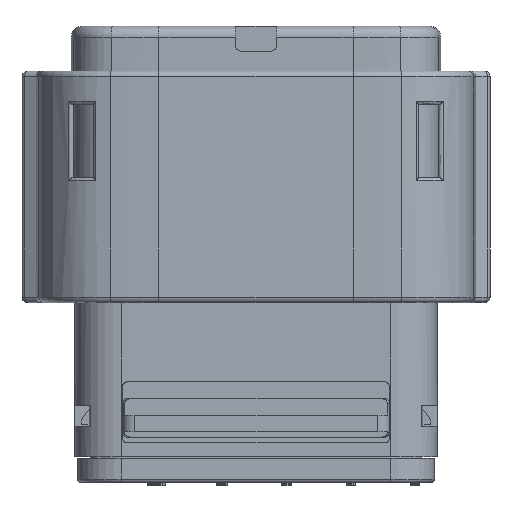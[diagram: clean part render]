
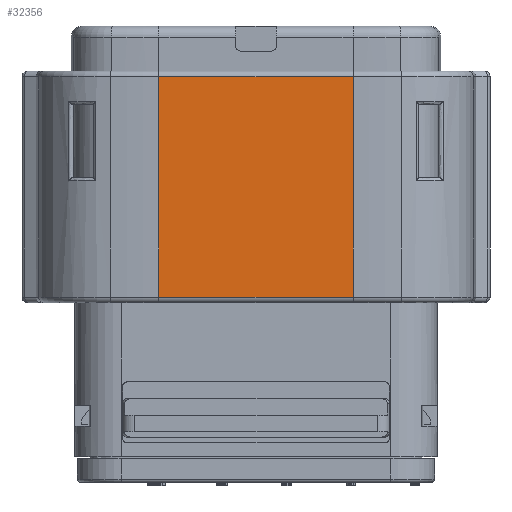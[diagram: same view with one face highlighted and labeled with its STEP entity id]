
A CAD part, front view. The second image highlights one B-rep face of the part: STEP entity #32356.
In plain terms, the highlighted planar face has unit normal (0, -1, 0).
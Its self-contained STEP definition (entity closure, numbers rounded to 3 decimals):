
#5253=DIRECTION('',(0.,0.,-1.));
#5254=VECTOR('',#5253,19.9);
#5255=CARTESIAN_POINT('',(39.529,-12.68,34.478));
#5256=LINE('',#5255,#5254);
#5487=DIRECTION('',(-1.,0.,0.));
#5488=VECTOR('',#5487,17.521);
#5489=CARTESIAN_POINT('',(39.529,-12.68,14.578));
#5490=LINE('',#5489,#5488);
#5491=DIRECTION('',(1.,0.,0.));
#5492=VECTOR('',#5491,17.521);
#5493=CARTESIAN_POINT('',(22.008,-12.68,34.478));
#5494=LINE('',#5493,#5492);
#5509=DIRECTION('',(0.,0.,1.));
#5510=VECTOR('',#5509,19.9);
#5511=CARTESIAN_POINT('',(22.008,-12.68,14.578));
#5512=LINE('',#5511,#5510);
#24491=CARTESIAN_POINT('',(22.008,-12.68,
14.578));
#24492=VERTEX_POINT('',#24491);
#24495=CARTESIAN_POINT('',(39.529,-12.68,
14.578));
#24496=VERTEX_POINT('',#24495);
#24631=CARTESIAN_POINT('',(39.529,-12.68,
34.478));
#24632=VERTEX_POINT('',#24631);
#24635=CARTESIAN_POINT('',(22.008,-12.68,
34.478));
#24636=VERTEX_POINT('',#24635);
#32344=CARTESIAN_POINT('',(39.465,-12.68,
14.578));
#32345=DIRECTION('',(0.,-1.,0.));
#32346=DIRECTION('',(0.,0.,1.));
#32347=AXIS2_PLACEMENT_3D('',#32344,#32345,#32346);
#32348=PLANE('',#32347);
#32349=ORIENTED_EDGE('',*,*,#31871,.T.);
#32351=ORIENTED_EDGE('',*,*,#32350,.T.);
#32352=ORIENTED_EDGE('',*,*,#32338,.T.);
#32353=ORIENTED_EDGE('',*,*,#31843,.T.);
#32354=EDGE_LOOP('',(#32349,#32351,#32352,#32353));
#32355=FACE_OUTER_BOUND('',#32354,.F.);
#32356=ADVANCED_FACE('',(#32355),#32348,.T.);
#31843=EDGE_CURVE('',#24632,#24496,#5256,.T.);
#31871=EDGE_CURVE('',#24496,#24492,#5490,.T.);
#32338=EDGE_CURVE('',#24636,#24632,#5494,.T.);
#32350=EDGE_CURVE('',#24492,#24636,#5512,.T.);
